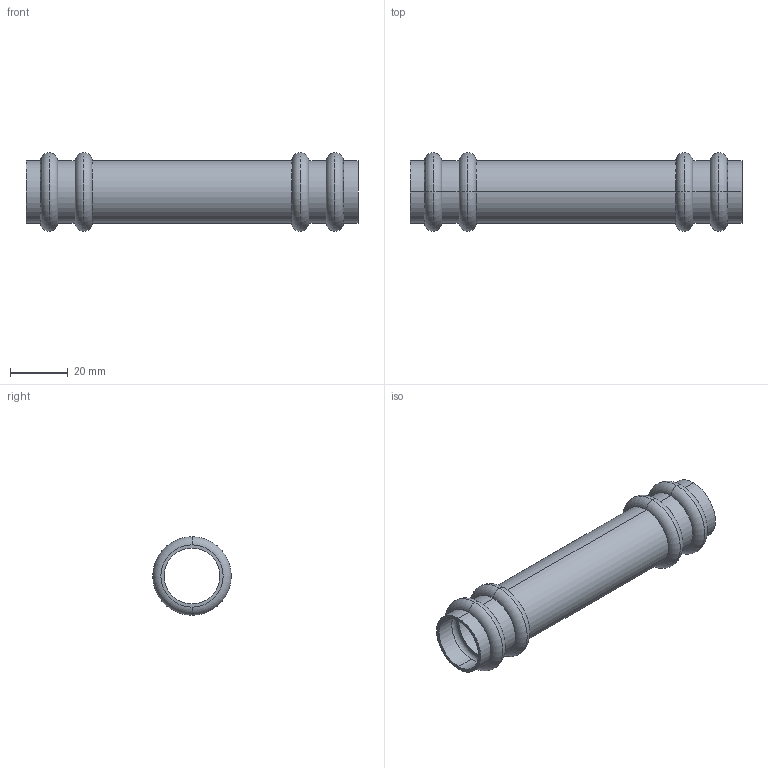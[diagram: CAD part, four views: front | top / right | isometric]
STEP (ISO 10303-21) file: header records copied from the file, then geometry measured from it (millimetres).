
FILE_DESCRIPTION(('starvars output'),'1');
FILE_NAME('cv20240422104918000011431.stp','10:49:19 2024/04/22',('Thomas Industrial Network Germany GmbH'),(' '),'Spatial InterOp 3D',' ',' ');
FILE_SCHEMA(('AUTOMOTIVE_DESIGN { 1 0 10303 214 3 1 1 }'));
Length unit declared in the file: millimetre
Products named in the file (1): 1
Bounding box: 115.06 x 27.2 x 27.2 mm (x, y, z)
Volume: 10283.1 mm3; surface area: 17601.3 mm2
Topology: 1 solids, 1 shells, 70 faces, 140 edges, 88 vertices
Faces by surface type: torus 32, cylinder 20, plane 18
Entity records: 2464 total; most frequent: DIRECTION 402, CARTESIAN_POINT 299, ORIENTED_EDGE 280, AXIS2_PLACEMENT_3D 191, EDGE_CURVE 140, CIRCLE 120, EDGE_LOOP 88, VERTEX_POINT 88
